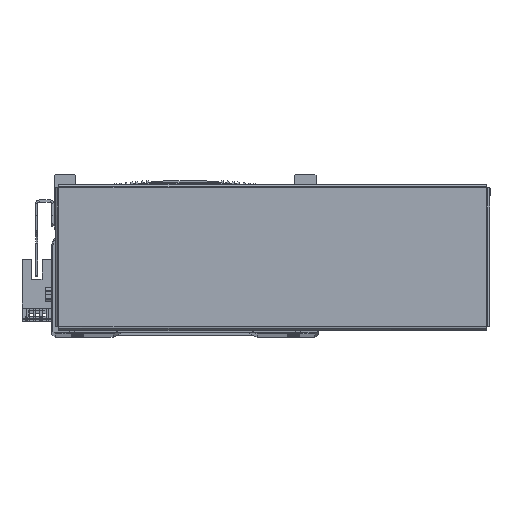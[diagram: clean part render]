
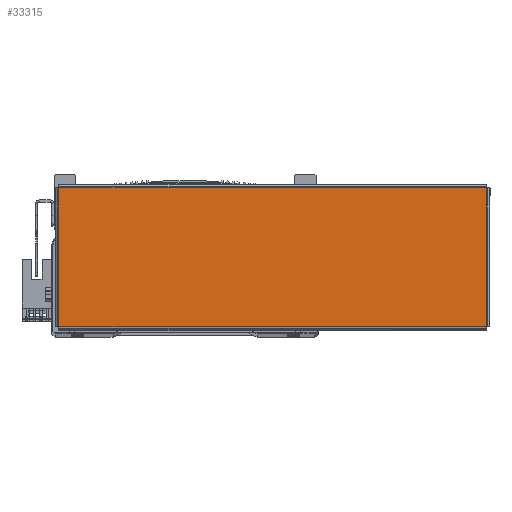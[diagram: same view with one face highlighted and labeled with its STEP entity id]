
A CAD part, top view. The second image highlights one B-rep face of the part: STEP entity #33315.
In plain terms, the highlighted planar face has unit normal (0, 0, 1) as drawn and (0, 0, -1) by its records, which use the part's own axes.
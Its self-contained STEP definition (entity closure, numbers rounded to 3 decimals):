
#5066 = CARTESIAN_POINT ( 'NONE',  ( 97.863, 31.793, -1. ) ) ;
#5068 = DIRECTION ( 'NONE',  ( 0., -1., 0. ) ) ;
#5188 = CARTESIAN_POINT ( 'NONE',  ( -97.863, -31.793, -1. ) ) ;
#5197 = DIRECTION ( 'NONE',  ( 0., 1., 0. ) ) ;
#5320 = CARTESIAN_POINT ( 'NONE',  ( 97.893, -31.763, -1. ) ) ;
#5325 = DIRECTION ( 'NONE',  ( -1., 0., 0. ) ) ;
#10050 = AXIS2_PLACEMENT_3D ( 'NONE', #38816, #38808, #38809 ) ;
#12648 = ORIENTED_EDGE ( 'NONE', *, *, #41296, .T. ) ;
#12652 = ORIENTED_EDGE ( 'NONE', *, *, #41200, .T. ) ;
#12671 = ORIENTED_EDGE ( 'NONE', *, *, #41257, .T. ) ;
#12680 = ORIENTED_EDGE ( 'NONE', *, *, #41314, .T. ) ;
#13515 = EDGE_LOOP ( 'NONE', ( #12671, #12680, #12648, #12652 ) ) ;
#14176 = VERTEX_POINT ( 'NONE', #50704 ) ;
#30878 = FACE_OUTER_BOUND ( 'NONE', #13515, .T. ) ;
#33315 = ADVANCED_FACE ( 'NONE', ( #30878 ), #38794, .F. ) ;
#38794 = PLANE ( 'NONE',  #10050 ) ;
#38808 = DIRECTION ( 'NONE',  ( 0., 0., 1. ) ) ;
#38809 = DIRECTION ( 'NONE',  ( 1., 0., 0. ) ) ;
#38816 = CARTESIAN_POINT ( 'NONE',  ( 0., 0., -1. ) ) ;
#41200 = EDGE_CURVE ( 'NONE', #63636, #14176, #70377, .T. ) ;
#41257 = EDGE_CURVE ( 'NONE', #14176, #63655, #70548, .T. ) ;
#41296 = EDGE_CURVE ( 'NONE', #63626, #63636, #70589, .T. ) ;
#41314 = EDGE_CURVE ( 'NONE', #63655, #63626, #70739, .T. ) ;
#44103 = DIRECTION ( 'NONE',  ( 1., 0., 0. ) ) ;
#44117 = CARTESIAN_POINT ( 'NONE',  ( -97.893, 31.763, -1. ) ) ;
#50704 = CARTESIAN_POINT ( 'NONE',  ( 97.863, 31.763, -1. ) ) ;
#63626 = VERTEX_POINT ( 'NONE', #80556 ) ;
#63636 = VERTEX_POINT ( 'NONE', #80690 ) ;
#63655 = VERTEX_POINT ( 'NONE', #80668 ) ;
#70377 = LINE ( 'NONE', #44117, #70394 ) ;
#70394 = VECTOR ( 'NONE', #44103, 1000. ) ;
#70548 = LINE ( 'NONE', #5066, #70552 ) ;
#70552 = VECTOR ( 'NONE', #5068, 1000. ) ;
#70589 = LINE ( 'NONE', #5188, #70677 ) ;
#70677 = VECTOR ( 'NONE', #5197, 1000. ) ;
#70702 = VECTOR ( 'NONE', #5325, 1000. ) ;
#70739 = LINE ( 'NONE', #5320, #70702 ) ;
#80556 = CARTESIAN_POINT ( 'NONE',  ( -97.863, -31.763, -1. ) ) ;
#80668 = CARTESIAN_POINT ( 'NONE',  ( 97.863, -31.763, -1. ) ) ;
#80690 = CARTESIAN_POINT ( 'NONE',  ( -97.863, 31.763, -1. ) ) ;
